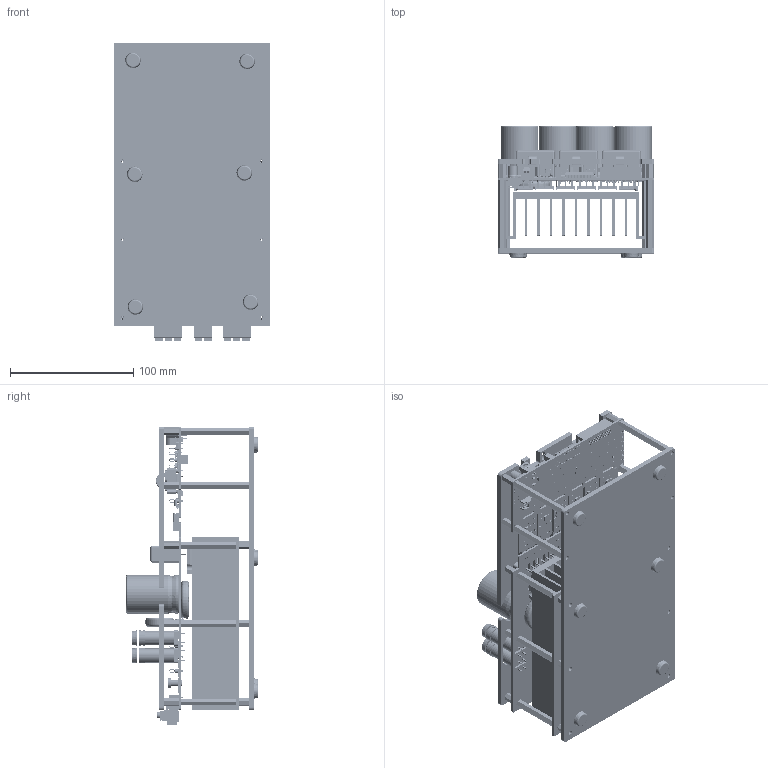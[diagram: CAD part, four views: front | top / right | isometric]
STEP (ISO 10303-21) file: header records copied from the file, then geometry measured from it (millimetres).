
FILE_DESCRIPTION (( 'STEP AP214' ), '1' );
FILE_NAME ('SPM-VFD-KIT.STEP', '2020-02-13T08:49:08', ( '' ), ( '' ), 'SwSTEP 2.0', 'SolidWorks 2019', '' );
FILE_SCHEMA (( 'AUTOMOTIVE_DESIGN' ));
Length unit declared in the file: millimetre
Products named in the file (10): HEX SPACER 12MM; SPM-VFD.02; HEX SPACER 55MM; Bumper; SPM-VFD-KIT; Acrylic-SPM-VFD-BOT; GDA-3A6S1.09; HEX SPACER 8MM; Acrylic-SPM-VFD-TOP; Acrylic-SPM-VFD-GDC-TOP
Assembly tree (31 placements, depth 2):
  SPM-VFD-KIT
    SPM-VFD.02
    Acrylic-SPM-VFD-BOT
    Acrylic-SPM-VFD-TOP
    Acrylic-SPM-VFD-GDC-TOP
    GDA-3A6S1.09
    HEX SPACER 55MM  x4
    HEX SPACER 8MM  x6
    HEX SPACER 12MM  x10
    Bumper  x6
Bounding box: 127.07 x 106.82 x 241.74 mm (x, y, z)
Volume: 207099.6 mm3; surface area: 390987.6 mm2
Topology: 29 solids, 2113 shells, 11773 faces, 49621 edges, 39156 vertices
Faces by surface type: plane 7845, cylinder 2481, bspline 1178, cone 153, torus 100, sphere 16
Entity records: 714836 total; most frequent: CARTESIAN_POINT 211317, DIRECTION 70537, ORIENTED_EDGE 68940, EDGE_CURVE 49132, VERTEX_POINT 38842, VECTOR 31481, LINE 31481, AXIS2_PLACEMENT_3D 19528
